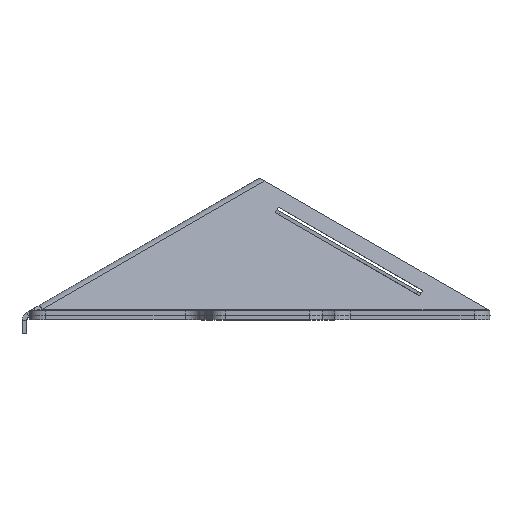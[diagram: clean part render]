
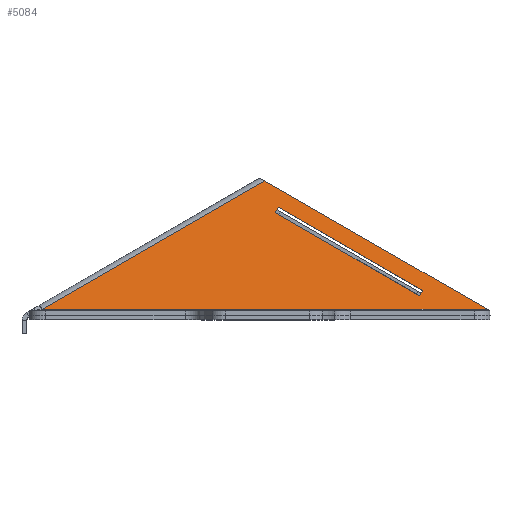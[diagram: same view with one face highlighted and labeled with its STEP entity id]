
A CAD part, top view. The second image highlights one B-rep face of the part: STEP entity #5084.
In plain terms, the highlighted planar face has unit normal (-0.083, 0.309, 0.947).
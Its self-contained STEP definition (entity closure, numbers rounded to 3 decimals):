
#31 = LINE ( 'NONE', #2547, #2114 ) ;
#103 = CARTESIAN_POINT ( 'NONE',  ( 7.385, -2.713, 5.626 ) ) ;
#147 = CARTESIAN_POINT ( 'NONE',  ( 1.178, 7.537, 1.74 ) ) ;
#213 = DIRECTION ( 'NONE',  ( -0.486, -0.842, 0.232 ) ) ;
#313 = DIRECTION ( 'NONE',  ( -0.083, 0.309, 0.947 ) ) ;
#348 = CARTESIAN_POINT ( 'NONE',  ( -13.699, 1.104, 2.536 ) ) ;
#357 = AXIS2_PLACEMENT_3D ( 'NONE', #1089, #313, #3075 ) ;
#397 = EDGE_LOOP ( 'NONE', ( #3100, #925, #2532, #3700 ) ) ;
#518 = VECTOR ( 'NONE', #4508, 1000. ) ;
#536 = CARTESIAN_POINT ( 'NONE',  ( 10.071, 1.94, 4.343 ) ) ;
#556 = ORIENTED_EDGE ( 'NONE', *, *, #3770, .T. ) ;
#557 = DIRECTION ( 'NONE',  ( -0.842, 0.486, -0.232 ) ) ;
#925 = ORIENTED_EDGE ( 'NONE', *, *, #2177, .F. ) ;
#1071 = CARTESIAN_POINT ( 'NONE',  ( 0.978, 7.19, 1.835 ) ) ;
#1089 = CARTESIAN_POINT ( 'NONE',  ( -0.322, 1.199, 3.676 ) ) ;
#1293 = CARTESIAN_POINT ( 'NONE',  ( 3.089, 6.433, 2.267 ) ) ;
#1334 = FACE_OUTER_BOUND ( 'NONE', #2562, .T. ) ;
#1411 = CARTESIAN_POINT ( 'NONE',  ( 14.503, 1.104, 5.004 ) ) ;
#1412 = LINE ( 'NONE', #1727, #518 ) ;
#1664 = DIRECTION ( 'NONE',  ( 0.486, 0.842, -0.232 ) ) ;
#1727 = CARTESIAN_POINT ( 'NONE',  ( -2.551, 10.845, 0.334 ) ) ;
#1794 = LINE ( 'NONE', #103, #4846 ) ;
#1971 = VECTOR ( 'NONE', #2574, 1000. ) ;
#1972 = EDGE_CURVE ( 'NONE', #3709, #4234, #1794, .T. ) ;
#2030 = DIRECTION ( 'NONE',  ( 0.842, -0.486, 0.232 ) ) ;
#2051 = VERTEX_POINT ( 'NONE', #2895 ) ;
#2082 = EDGE_CURVE ( 'NONE', #4234, #3741, #3677, .T. ) ;
#2114 = VECTOR ( 'NONE', #213, 1000. ) ;
#2177 = EDGE_CURVE ( 'NONE', #3741, #3548, #31, .T. ) ;
#2405 = VERTEX_POINT ( 'NONE', #348 ) ;
#2472 = VECTOR ( 'NONE', #557, 1000. ) ;
#2532 = ORIENTED_EDGE ( 'NONE', *, *, #2082, .F. ) ;
#2547 = CARTESIAN_POINT ( 'NONE',  ( -1.992, 2.047, 3.253 ) ) ;
#2562 = EDGE_LOOP ( 'NONE', ( #556, #3619, #3405 ) ) ;
#2574 = DIRECTION ( 'NONE',  ( 0.996, 0., 0.087 ) ) ;
#2708 = LINE ( 'NONE', #3283, #4698 ) ;
#2895 = CARTESIAN_POINT ( 'NONE',  ( 14.32, 1.104, 4.988 ) ) ;
#2935 = CARTESIAN_POINT ( 'NONE',  ( 0.311, 9.192, 1.124 ) ) ;
#3075 = DIRECTION ( 'NONE',  ( 0., -0.951, 0.31 ) ) ;
#3100 = ORIENTED_EDGE ( 'NONE', *, *, #4285, .F. ) ;
#3283 = CARTESIAN_POINT ( 'NONE',  ( -14.116, 0.863, 2.578 ) ) ;
#3350 = VECTOR ( 'NONE', #2030, 1000. ) ;
#3405 = ORIENTED_EDGE ( 'NONE', *, *, #3885, .T. ) ;
#3548 = VERTEX_POINT ( 'NONE', #1071 ) ;
#3619 = ORIENTED_EDGE ( 'NONE', *, *, #3711, .T. ) ;
#3677 = LINE ( 'NONE', #1293, #2472 ) ;
#3700 = ORIENTED_EDGE ( 'NONE', *, *, #1972, .F. ) ;
#3709 = VERTEX_POINT ( 'NONE', #536 ) ;
#3711 = EDGE_CURVE ( 'NONE', #3778, #2405, #2708, .T. ) ;
#3741 = VERTEX_POINT ( 'NONE', #147 ) ;
#3770 = EDGE_CURVE ( 'NONE', #2051, #3778, #1412, .T. ) ;
#3778 = VERTEX_POINT ( 'NONE', #2935 ) ;
#3885 = EDGE_CURVE ( 'NONE', #2405, #2051, #5012, .T. ) ;
#4234 = VERTEX_POINT ( 'NONE', #4427 ) ;
#4285 = EDGE_CURVE ( 'NONE', #3548, #3709, #4638, .T. ) ;
#4427 = CARTESIAN_POINT ( 'NONE',  ( 10.271, 2.287, 4.248 ) ) ;
#4480 = DIRECTION ( 'NONE',  ( -0.863, -0.498, 0.087 ) ) ;
#4488 = FACE_BOUND ( 'NONE', #397, .T. ) ;
#4508 = DIRECTION ( 'NONE',  ( -0.842, 0.486, -0.232 ) ) ;
#4638 = LINE ( 'NONE', #4808, #3350 ) ;
#4698 = VECTOR ( 'NONE', #4480, 1000. ) ;
#4808 = CARTESIAN_POINT ( 'NONE',  ( 2.87, 6.098, 2.357 ) ) ;
#4846 = VECTOR ( 'NONE', #1664, 1000. ) ;
#5012 = LINE ( 'NONE', #1411, #1971 ) ;
#5045 = PLANE ( 'NONE',  #357 ) ;
#5084 = ADVANCED_FACE ( 'NONE', ( #4488, #1334 ), #5045, .T. ) ;
